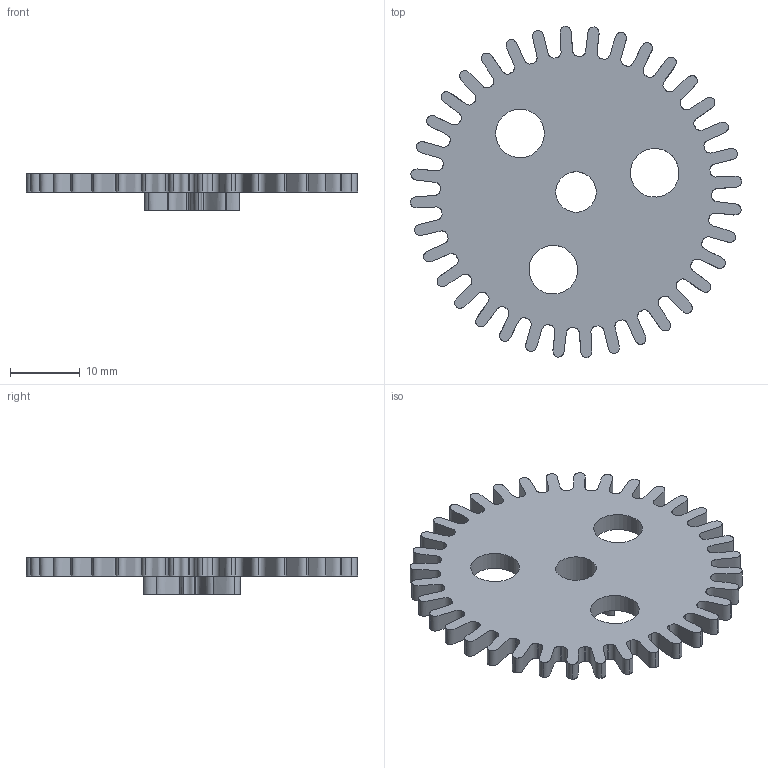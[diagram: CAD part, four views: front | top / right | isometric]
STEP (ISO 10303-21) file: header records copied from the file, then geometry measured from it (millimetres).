
FILE_DESCRIPTION(/* description */ (''),/* implementation_level */ '2;1');
FILE_NAME(/* name */ 'D:\Desktop\WatchCAdFiles\print2endTime\5.8\Solid6.stp',/* time_stamp */ '2019-05-02T17:03:42+02:00',/* author */ ('fkhad'),/* organization */ (''),/* preprocessor_version */ 'ST-DEVELOPER v17',/* originating_system */ 'Autodesk Inventor 2018',/* authorisation */ '');
FILE_SCHEMA (('AUTOMOTIVE_DESIGN { 1 0 10303 214 3 1 1 }'));
Length unit declared in the file: inch
Products named in the file (1): Solid6
Bounding box: 47.46 x 47.46 x 5.22 mm (x, y, z)
Volume: 3542.8 mm3; surface area: 4082.2 mm2
Topology: 1 solids, 1 shells, 145 faces, 434 edges, 292 vertices
Faces by surface type: bspline 92, cylinder 50, plane 3
Full cylindrical faces by diameter (mm): 5.8 x1, 6.96 x3
Entity records: 6973 total; most frequent: CARTESIAN_POINT 3380, ORIENTED_EDGE 868, DIRECTION 466, EDGE_CURVE 434, VERTEX_POINT 292, B_SPLINE_CURVE_WITH_KNOTS 184, AXIS2_PLACEMENT_3D 162, EDGE_LOOP 154
